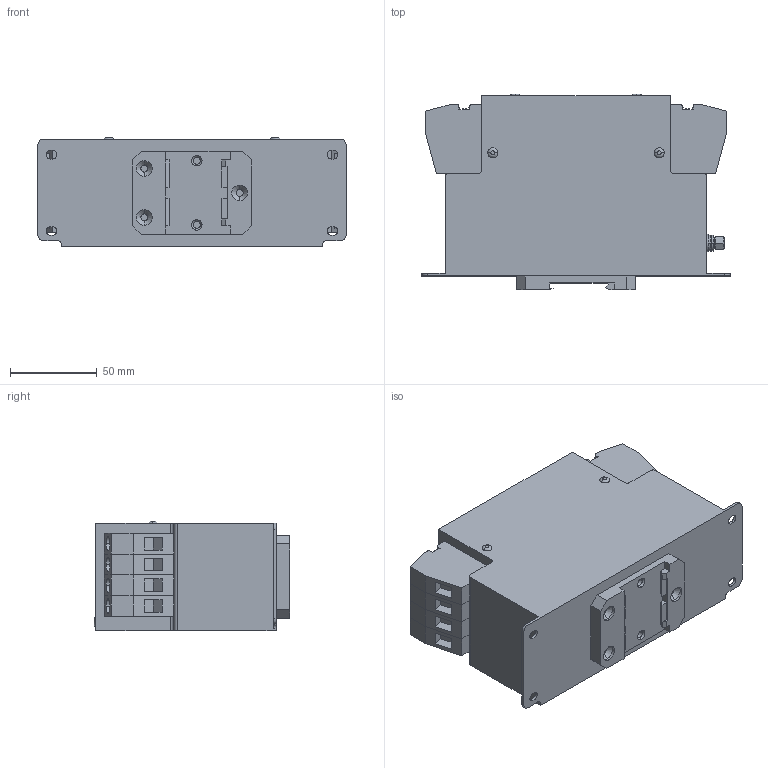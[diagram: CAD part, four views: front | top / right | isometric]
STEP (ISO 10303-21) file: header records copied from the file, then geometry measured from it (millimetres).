
FILE_DESCRIPTION (( 'STEP AP214' ), '1' );
FILE_NAME ('NF-4-50-BFG-CD.STEP', '2021-08-04T12:20:03', ( '' ), ( '' ), 'SwSTEP 2.0', 'SolidWorks 2021', '' );
FILE_SCHEMA (( 'AUTOMOTIVE_DESIGN' ));
Length unit declared in the file: millimetre
Products named in the file (7): NF-4-50-BFG-CD; hdfk_16_vp; HDFK_16; NF-4-50-BFG_NF-4-50-BFG-CD; 625125; mutter_din_en_24034-m5-5; din125-1-a_5_3-140_hv_-_c4
Assembly tree (14 placements, depth 3):
  NF-4-50-BFG-CD
    NF-4-50-BFG_NF-4-50-BFG-CD
    HDFK_16  x4
      hdfk_16_vp
    hdfk_16_vp  x4
    din125-1-a_5_3-140_hv_-_c4
    625125  x2
    mutter_din_en_24034-m5-5
Bounding box: 178 x 113 x 63 mm (x, y, z)
Volume: 1002876.3 mm3; surface area: 112281.3 mm2
Topology: 13 solids, 13 shells, 835 faces, 2120 edges, 1394 vertices
Faces by surface type: plane 529, cylinder 238, cone 36, bspline 24, torus 8
Entity records: 9098 total; most frequent: CARTESIAN_POINT 1382, DIRECTION 1297, ORIENTED_EDGE 1224, EDGE_CURVE 612, AXIS2_PLACEMENT_3D 449, VECTOR 399, LINE 399, VERTEX_POINT 398
